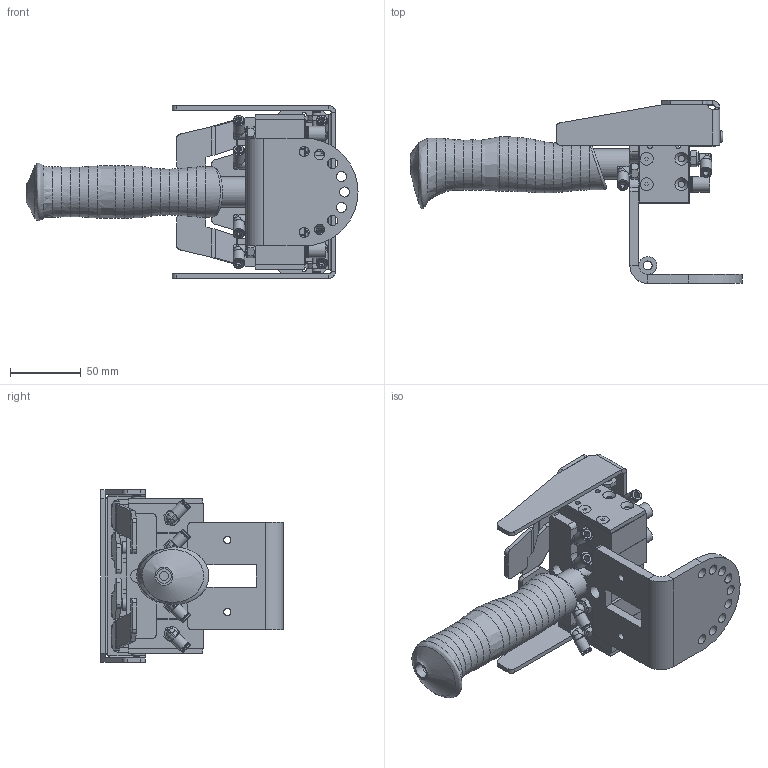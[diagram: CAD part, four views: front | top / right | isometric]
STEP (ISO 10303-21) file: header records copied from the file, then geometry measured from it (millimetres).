
FILE_DESCRIPTION(/* description */ (''),/* implementation_level */ '2;1');
FILE_NAME(/* name */ 'FDBPA9110.001.stp',/* time_stamp */ '2024-03-11T13:20:55-04:00',/* author */ (''),/* organization */ (''),/* preprocessor_version */ 'ST-DEVELOPER v18.102',/* originating_system */ 'SIEMENS PLM Software NX 2027',/* authorisation */ '');
FILE_SCHEMA (('AUTOMOTIVE_DESIGN { 1 0 10303 214 3 1 1 1 }'));
Products named in the file (1): FDBPA9110.001
Bounding box: 234.95 x 129.38 x 122.24 mm (x, y, z)
Volume: 479618.6 mm3; surface area: 208076.6 mm2
Topology: 54 solids, 54 shells, 2251 faces, 5596 edges, 3515 vertices
Faces by surface type: plane 1251, cylinder 631, cone 272, bspline 48, torus 26, sphere 18, revolution 4, extrusion 1
Full cylindrical faces by diameter (mm): 2.5 x8, 3 x8, 3.3 x2, 3.454 x10, 3.969 x2, 4 x8, 4.166 x4, 4.366 x2, 4.496 x8, 4.5 x16, 4.8 x16, 5.105 x2, 5.7 x4, 6.35 x4, 6.528 x1, 6.747 x8, 7.144 x9, 7.7 x8, 7.874 x2, 8.2 x8, 8.306 x8, 8.433 x12, 8.5 x4, 9.525 x2, 9.7 x4, 10.312 x1, 11 x4, 12.7 x2, 15.893 x1, 19.431 x1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
Entity records: 88608 total; most frequent: CARTESIAN_POINT 20682, DIRECTION 10902, ORIENTED_EDGE 10452, EDGE_CURVE 5226, AXIS2_PLACEMENT_3D 4071, VERTEX_POINT 3466, VECTOR 2756, EDGE_LOOP 2756
